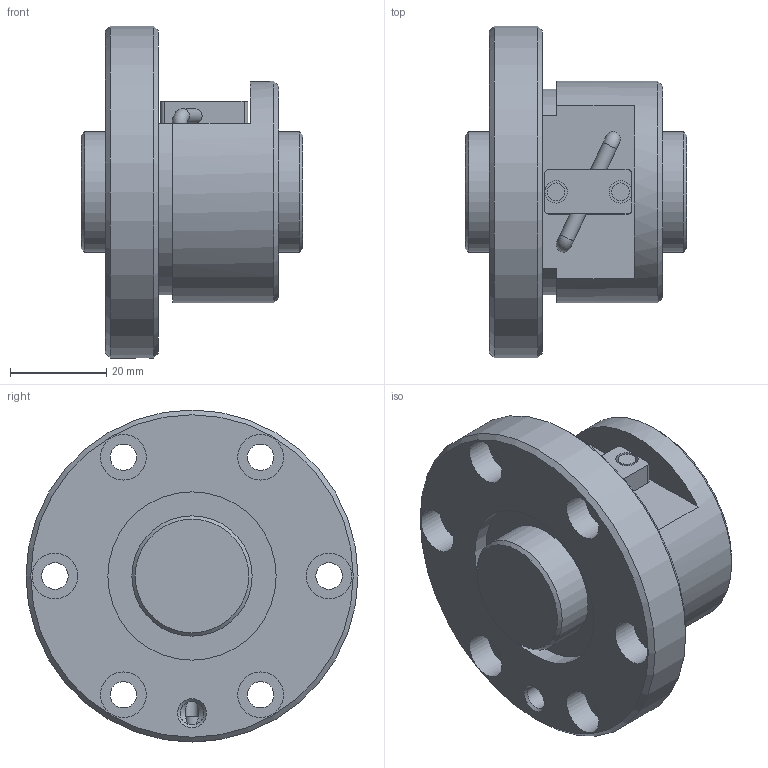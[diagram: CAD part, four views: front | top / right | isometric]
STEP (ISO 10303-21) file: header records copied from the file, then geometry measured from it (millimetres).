
FILE_DESCRIPTION(/* description */ ('STEP AP203'),/* implementation_level */ '2;1');
FILE_NAME(/* name */ 'BNF2504V-2.5RRG1+46LC0_000_rev',/* time_stamp */ '2024-08-06T07:28:48+02:00',/* author */ ('License CC BY-ND 4.0'),/* organization */ ('CADENAS'),/* preprocessor_version */ 'ST-DEVELOPER v19.3',/* originating_system */ 'PARTsolutions',/* authorisation */ ' ');
FILE_SCHEMA (('CONFIG_CONTROL_DESIGN'));
Length unit declared in the file: millimetre
Products named in the file (3): BNF2504V-2.5RRG1+46LC0_000_rev; BNF 2504-2.5RR000 Shaft; BNF 2504-2.5RR Nut
Assembly tree (2 placements, depth 2):
  BNF2504V-2.5RRG1+46LC0_000_rev
    BNF 2504-2.5RR000 Shaft
    BNF 2504-2.5RR Nut
Bounding box: 46 x 69 x 69 mm (x, y, z)
Volume: 76981.3 mm3; surface area: 22331.9 mm2
Topology: 2 solids, 2 shells, 70 faces, 152 edges, 99 vertices
Faces by surface type: cylinder 33, plane 27, cone 8, torus 2
Full cylindrical faces by diameter (mm): 2.75 x2, 3.065 x2, 3.68 x2, 4.68 x2, 4.917 x1, 5.5 x6, 9.5 x6, 25 x2, 34.96 x2, 46 x1, 69 x1
Entity records: 1803 total; most frequent: DIRECTION 316, CARTESIAN_POINT 313, ORIENTED_EDGE 210, AXIS2_PLACEMENT_3D 146, EDGE_LOOP 140, FACE_BOUND 140, EDGE_CURVE 105, VERTEX_POINT 89
